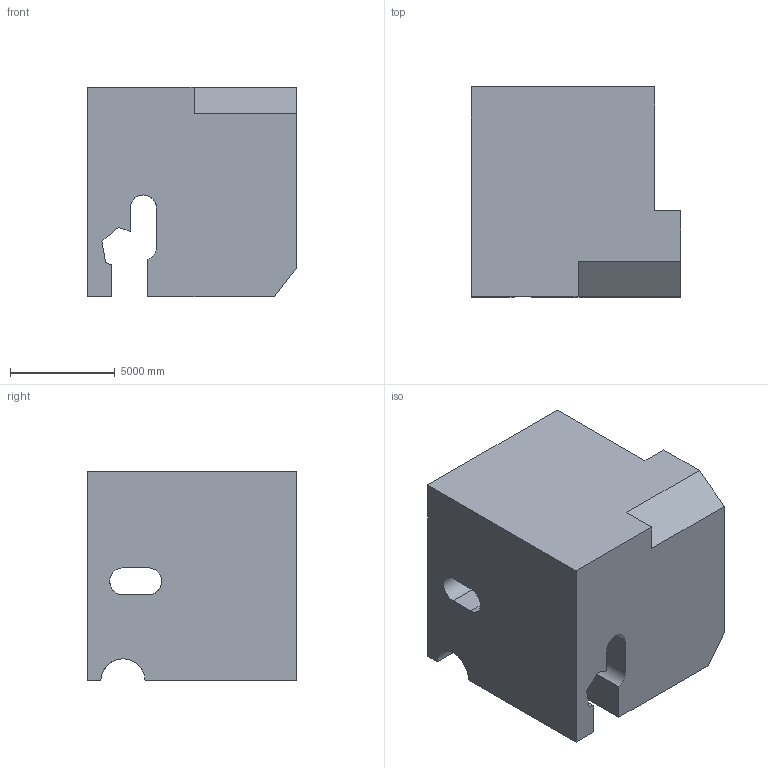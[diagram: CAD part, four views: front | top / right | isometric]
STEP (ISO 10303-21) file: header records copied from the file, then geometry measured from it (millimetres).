
FILE_DESCRIPTION (( 'STEP AP203' ), '1' );
FILE_NAME ('728.STEP', '2022-07-29T12:47:55', ( 'user' ), ( '' ), 'SwSTEP 2.0', 'SolidWorks 2021', '' );
FILE_SCHEMA (( 'CONFIG_CONTROL_DESIGN' ));
Length unit declared in the file: centimetre
Products named in the file (1): 728
Bounding box: 10000 x 10000 x 10000 mm (x, y, z)
Volume: 760362686144.9 mm3; surface area: 691546810 mm2
Topology: 1 solids, 1 shells, 34 faces, 102 edges, 68 vertices
Faces by surface type: plane 25, cylinder 9
Entity records: 1458 total; most frequent: CARTESIAN_POINT 454, ORIENTED_EDGE 204, DIRECTION 180, EDGE_CURVE 102, LINE 80, VECTOR 80, VERTEX_POINT 68, AXIS2_PLACEMENT_3D 50
